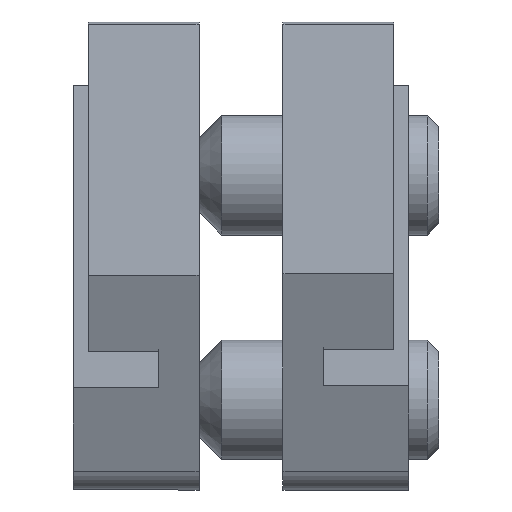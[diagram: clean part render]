
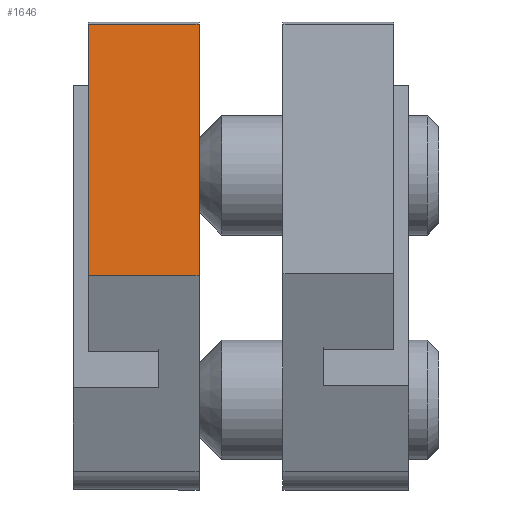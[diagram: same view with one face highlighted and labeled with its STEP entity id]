
A CAD part, front view. The second image highlights one B-rep face of the part: STEP entity #1646.
In plain terms, the highlighted planar face has unit normal (0, -0.383, 0.924) as drawn and (0, 0.383, 0.924) by its records, which use the part's own axes.
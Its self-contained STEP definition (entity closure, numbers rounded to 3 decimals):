
#99=PLANE('',#1857);
#173=FACE_OUTER_BOUND('',#272,.T.);
#272=EDGE_LOOP('',(#1290,#1291,#1292,#1293));
#366=LINE('',#2597,#523);
#372=LINE('',#2610,#529);
#379=LINE('',#2627,#536);
#405=LINE('',#2695,#562);
#523=VECTOR('',#2065,10.);
#529=VECTOR('',#2077,10.);
#536=VECTOR('',#2092,10.);
#562=VECTOR('',#2168,10.);
#776=VERTEX_POINT('',#2594);
#777=VERTEX_POINT('',#2596);
#781=VERTEX_POINT('',#2609);
#787=VERTEX_POINT('',#2626);
#936=EDGE_CURVE('',#776,#777,#366,.T.);
#943=EDGE_CURVE('',#781,#777,#372,.T.);
#952=EDGE_CURVE('',#781,#787,#379,.T.);
#987=EDGE_CURVE('',#776,#787,#405,.T.);
#1290=ORIENTED_EDGE('',*,*,#936,.F.);
#1291=ORIENTED_EDGE('',*,*,#987,.T.);
#1292=ORIENTED_EDGE('',*,*,#952,.F.);
#1293=ORIENTED_EDGE('',*,*,#943,.T.);
#1646=ADVANCED_FACE('',(#173),#99,.T.);
#1857=AXIS2_PLACEMENT_3D('',#2694,#2166,#2167);
#2065=DIRECTION('',(-1.,0.,0.));
#2077=DIRECTION('',(0.,-0.924,0.383));
#2092=DIRECTION('',(1.,0.,0.));
#2166=DIRECTION('center_axis',(0.,0.383,0.924));
#2167=DIRECTION('ref_axis',(0.,-0.924,0.383));
#2168=DIRECTION('',(0.,0.924,-0.383));
#2594=CARTESIAN_POINT('',(7.4,11.349,31.067));
#2596=CARTESIAN_POINT('',(0.,11.349,31.067));
#2597=CARTESIAN_POINT('',(1.35,11.349,31.067));
#2609=CARTESIAN_POINT('',(0.,51.8,14.311));
#2610=CARTESIAN_POINT('',(0.,51.8,14.311));
#2626=CARTESIAN_POINT('',(7.4,51.8,14.311));
#2627=CARTESIAN_POINT('',(0.,51.8,14.311));
#2694=CARTESIAN_POINT('Origin',(0.,51.8,14.311));
#2695=CARTESIAN_POINT('',(7.4,51.8,14.311));
